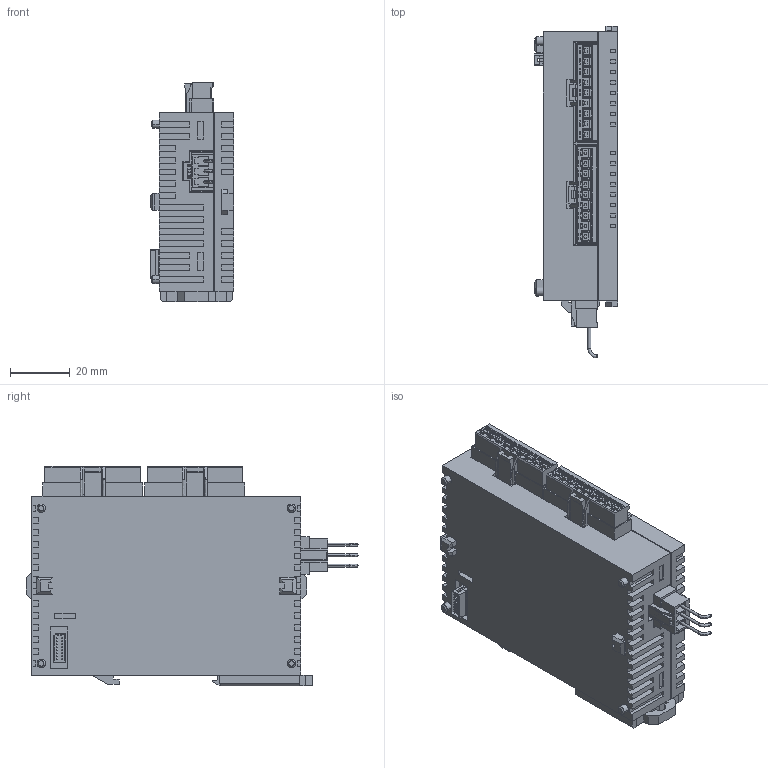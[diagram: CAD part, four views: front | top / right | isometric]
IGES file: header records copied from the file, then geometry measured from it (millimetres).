
Start section: SolidWorks IGES file using analytic representation for surfaces
Global section: file name: C:\catalog\FP0R_catalog\afp0re16rm\afp0re16rm.IGS; native system: SolidWorks 2010; preprocessor: SolidWorks 2010; author: ek1676; date: 130628.140358; units: millimetre
Bounding box: 28 x 111.2 x 73.6 mm (x, y, z)
Surface area: 29970.7 mm2 (no closed solid volume)
Topology: 0 solids, 0 shells, 1676 faces, 10050 edges, 10050 vertices
Faces by surface type: bspline 1619, revolution 57
